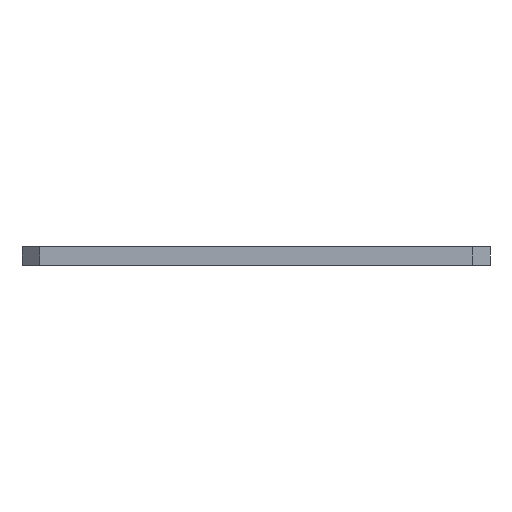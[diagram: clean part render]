
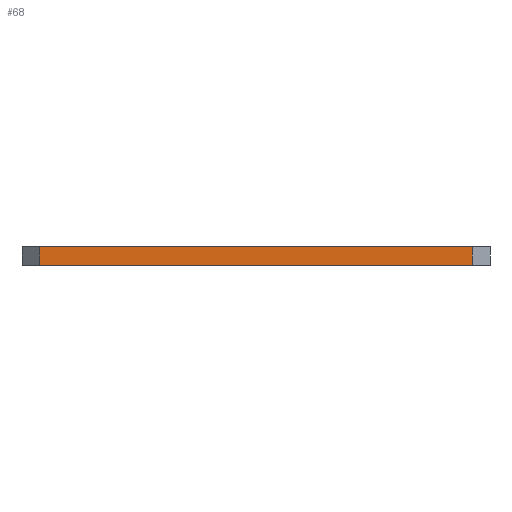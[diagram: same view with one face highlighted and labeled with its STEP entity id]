
A CAD part, left-side view. The second image highlights one B-rep face of the part: STEP entity #68.
In plain terms, the highlighted planar face has unit normal (-1, 0, 0).
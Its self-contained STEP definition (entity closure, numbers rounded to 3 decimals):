
#68=ADVANCED_FACE('',(#142),#1383,.T.);
#142=FACE_OUTER_BOUND('',#216,.T.);
#216=EDGE_LOOP('',(#334,#335,#336,#337));
#334=ORIENTED_EDGE('',*,*,#760,.F.);
#335=ORIENTED_EDGE('',*,*,#765,.T.);
#336=ORIENTED_EDGE('',*,*,#766,.T.);
#337=ORIENTED_EDGE('',*,*,#767,.T.);
#760=EDGE_CURVE('',#1192,#1193,#1070,.T.);
#765=EDGE_CURVE('',#1192,#1196,#1075,.T.);
#766=EDGE_CURVE('',#1196,#1197,#1076,.T.);
#767=EDGE_CURVE('',#1197,#1193,#1077,.T.);
#1070=B_SPLINE_CURVE_WITH_KNOTS('',1,(#2296,#2297),.UNSPECIFIED.,.F.,.F.,
(2,2),(-1.6,0.),.UNSPECIFIED.);
#1075=B_SPLINE_CURVE_WITH_KNOTS('',1,(#2306,#2307),.UNSPECIFIED.,.F.,.F.,
(2,2),(0.,37.),.UNSPECIFIED.);
#1076=B_SPLINE_CURVE_WITH_KNOTS('',1,(#2308,#2309),.UNSPECIFIED.,.F.,.F.,
(2,2),(-1.6,0.),.UNSPECIFIED.);
#1077=B_SPLINE_CURVE_WITH_KNOTS('',1,(#2310,#2311),.UNSPECIFIED.,.F.,.F.,
(2,2),(-37.,0.),.UNSPECIFIED.);
#1192=VERTEX_POINT('',#2150);
#1193=VERTEX_POINT('',#2151);
#1196=VERTEX_POINT('',#2154);
#1197=VERTEX_POINT('',#2155);
#1383=PLANE('',#1451);
#1451=AXIS2_PLACEMENT_3D('',#1517,#1484,$);
#1484=DIRECTION('',(-1.,0.,0.));
#1517=CARTESIAN_POINT('',(110.49,-120.226,1.88));
#2150=CARTESIAN_POINT('',(110.49,-116.406,1.6));
#2151=CARTESIAN_POINT('',(110.49,-116.406,0.));
#2154=CARTESIAN_POINT('',(110.49,-79.406,1.6));
#2155=CARTESIAN_POINT('',(110.49,-79.406,0.));
#2296=CARTESIAN_POINT('',(110.49,-116.406,1.6));
#2297=CARTESIAN_POINT('',(110.49,-116.406,0.));
#2306=CARTESIAN_POINT('',(110.49,-116.406,1.6));
#2307=CARTESIAN_POINT('',(110.49,-79.406,1.6));
#2308=CARTESIAN_POINT('',(110.49,-79.406,1.6));
#2309=CARTESIAN_POINT('',(110.49,-79.406,0.));
#2310=CARTESIAN_POINT('',(110.49,-79.406,0.));
#2311=CARTESIAN_POINT('',(110.49,-116.406,0.));
